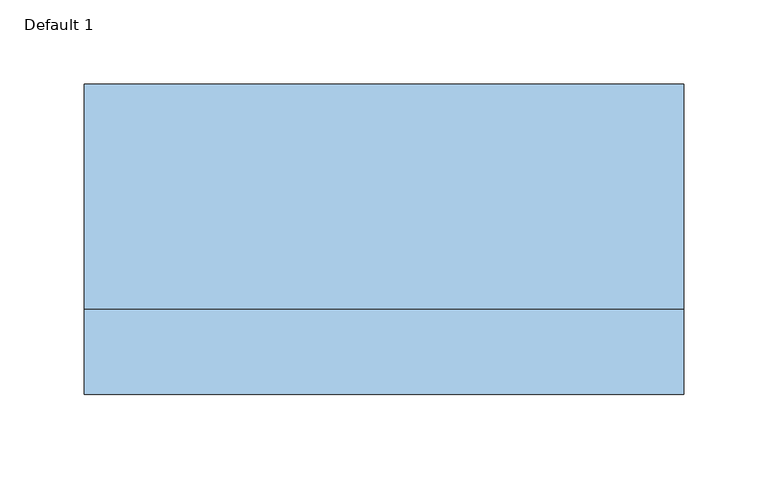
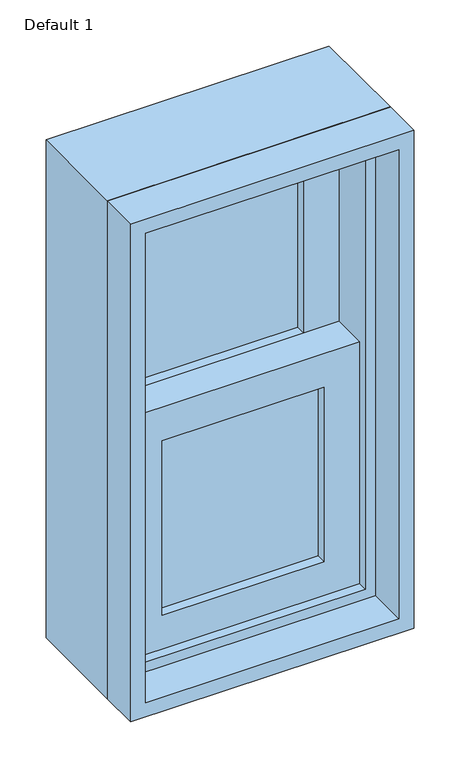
"""IFC4 building model written with IfcOpenShell, lengths in millimetres: window geometry, Planitar-Double-Hung-Single : Default 1."""

from ifc_helpers import new_model, si_unit, frame, origin, place, context, project, spatial, polyline, outline, extrude, source, transform, mapped, element, save


def default_1_15d17b29(model_context):
    return source(origin(), model_context, "Body", "SweptSolid", [
        extrude(outline(polyline([(101.6, 12.7), (101.6, 6.35), (-101.6, 6.35), (-101.6, 12.7), (101.6, 12.7)])), frame((0.0, 0.0, 990.6), z_axis=(0.0, 0.0, 1.0), x_axis=(1.0, 0.0, 0.0)), (0.0, 0.0, 1.0), 231.775),
        extrude(outline(polyline([(-101.6, 0.0), (101.6, 0.0), (101.6, -6.35), (-101.6, -6.35), (-101.6, 0.0)])), frame((0.0, 0.0, 990.6), z_axis=(0.0, 0.0, 1.0), x_axis=(1.0, 0.0, 0.0)), (0.0, 0.0, 1.0), 231.775),
        extrude(outline(polyline([(101.6, 57.15), (101.6, 50.8), (-101.6, 50.8), (-101.6, 57.15), (101.6, 57.15)])), frame((0.0, 0.0, 1266.825), z_axis=(0.0, 0.0, 1.0), x_axis=(1.0, 0.0, 0.0)), (0.0, 0.0, 1.0), 231.775),
        extrude(outline(polyline([(-101.6, 44.45), (101.6, 44.45), (101.6, 38.1), (-101.6, 38.1), (-101.6, 44.45)])), frame((0.0, 0.0, 1266.825), z_axis=(0.0, 0.0, 1.0), x_axis=(1.0, 0.0, 0.0)), (0.0, 0.0, 1.0), 231.775),
        extrude(outline(polyline([(1266.825, -146.05), (946.15, -146.05), (946.15, 146.05), (1266.825, 146.05), (1266.825, -146.05)]), holes=[polyline([(1222.375, 101.6), (990.6, 101.6), (990.6, -101.6), (1222.375, -101.6), (1222.375, 101.6)])]), frame((0.0, -19.05, 0.0), z_axis=(0.0, 1.0, 0.0), x_axis=(0.0, 0.0, 1.0)), (0.0, 0.0, 1.0), 44.45),
        extrude(outline(polyline([(1543.05, -146.05), (1222.375, -146.05), (1222.375, 146.05), (1543.05, 146.05), (1543.05, -146.05)]), holes=[polyline([(1498.6, 101.6), (1266.825, 101.6), (1266.825, -101.6), (1498.6, -101.6), (1498.6, 101.6)])]), frame((0.0, 25.4, 0.0), z_axis=(0.0, 1.0, 0.0), x_axis=(0.0, 0.0, 1.0)), (0.0, 0.0, 1.0), 44.45),
        extrude(outline(polyline([(1574.8, -177.8), (914.4, -177.8), (914.4, 177.8), (1574.8, 177.8), (1574.8, -177.8)]), holes=[polyline([(1543.05, 146.05), (946.15, 146.05), (946.15, -146.05), (1543.05, -146.05), (1543.05, 146.05)])]), frame((0.0, -31.75, 0.0), z_axis=(0.0, 1.0, 0.0), x_axis=(0.0, 0.0, 1.0)), (0.0, 0.0, 1.0), 133.35),
        extrude(outline(polyline([(1574.8, 177.8), (1574.8, -177.8), (914.4, -177.8), (914.4, 177.8), (1574.8, 177.8)]), holes=[polyline([(1555.75, 158.75), (933.45, 158.75), (933.45, -158.75), (1555.75, -158.75), (1555.75, 158.75)])]), frame((0.0, -82.55, 0.0), z_axis=(0.0, 1.0, 0.0), x_axis=(0.0, 0.0, 1.0)), (0.0, 0.0, 1.0), 50.8),
    ])


if __name__ == "__main__":
    model = new_model("IFC4")
    model_context = context("Model", 3, world=origin())
    ifc_project = project(units=[si_unit("LENGTHUNIT", "METRE", prefix="MILLI")], contexts=[model_context])
    site = spatial("IfcSite", under=ifc_project)
    building = spatial("IfcBuilding", under=site)
    placement = place(None, origin())
    default_1_shape = default_1_15d17b29(model_context)
    element("IfcWindow", 1, ObjectType="Planitar-Double-Hung-Single : Default 1", at=placement, inside=building, context=model_context, shape_type="MappedRepresentation", body=[
        mapped(default_1_shape, transform((0.0, 0.0, 0.0), x_axis=(1.0, 0.0, 0.0), y_axis=(0.0, 1.0, 0.0), z_axis=(0.0, 0.0, 1.0))),
    ])
    save(model, "model.ifc")
